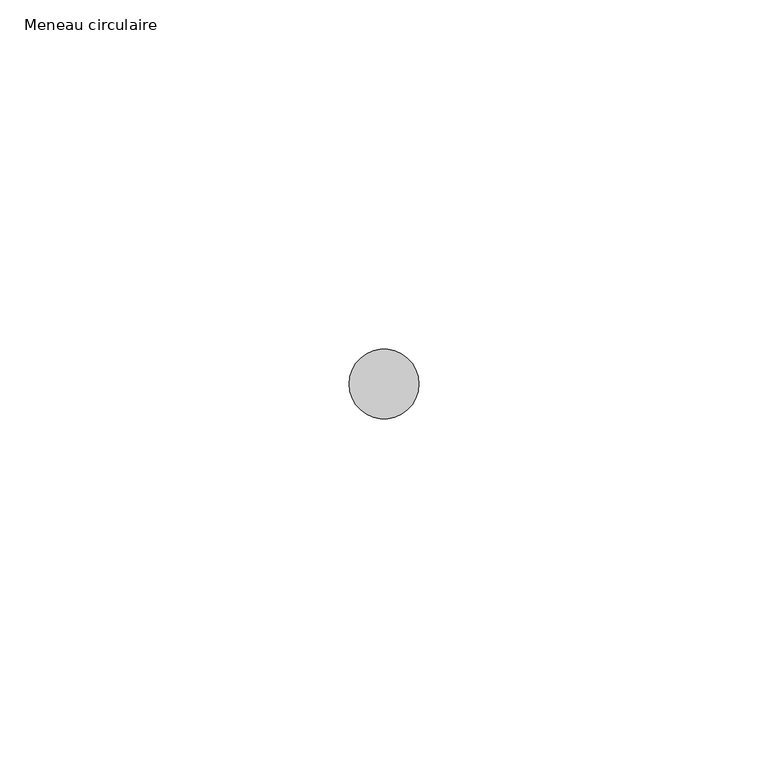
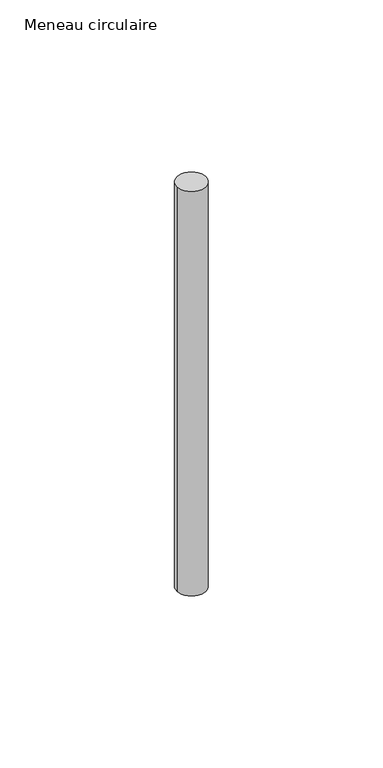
"""IFC4 building model written with IfcOpenShell, lengths in millimetres: member geometry, Meneau circulaire : Diamètre 1cm."""

from ifc_helpers import new_model, si_unit, point, frame, origin, origin_2d, place, context, project, spatial, circle_curve, trimmed, segment, composite_curve, outline, extrude, source, transform, mapped, element, save


def meneau_circulaire_47cdc26e(model_context):
    return source(origin(), model_context, "Body", "SweptSolid", [
        extrude(outline(composite_curve([segment(trimmed(circle_curve(origin_2d(), 5.0), [point((5.0, 0.0))], [point((-5.0, 0.0))], False, "CARTESIAN"), True, "CONTINUOUS"), segment(trimmed(circle_curve(origin_2d(), 5.0), [point((-5.0, 0.0))], [point((5.0, 0.0))], False, "CARTESIAN"), True, "CONTINUOUS")], self_intersect=False)), frame((0.0, 0.0, -146.4211122), z_axis=(0.0, 0.0, 1.0), x_axis=(1.0, 0.0, 0.0)), (0.0, 0.0, 1.0), 146.4211122),
    ])


if __name__ == "__main__":
    model = new_model("IFC4")
    model_context = context("Model", 3, world=origin())
    ifc_project = project(units=[si_unit("LENGTHUNIT", "METRE", prefix="MILLI")], contexts=[model_context])
    site = spatial("IfcSite", under=ifc_project)
    building = spatial("IfcBuilding", under=site)
    placement = place(None, origin())
    meneau_circulaire_shape = meneau_circulaire_47cdc26e(model_context)
    element("IfcMember", 1, ObjectType="Meneau circulaire : Diamètre 1cm", at=placement, inside=building, context=model_context, shape_type="MappedRepresentation", body=[
        mapped(meneau_circulaire_shape, transform((0.0, 0.0, 0.0), x_axis=(1.0, 0.0, 0.0), y_axis=(0.0, 1.0, 0.0), z_axis=(0.0, 0.0, 1.0))),
    ])
    save(model, "model.ifc")
